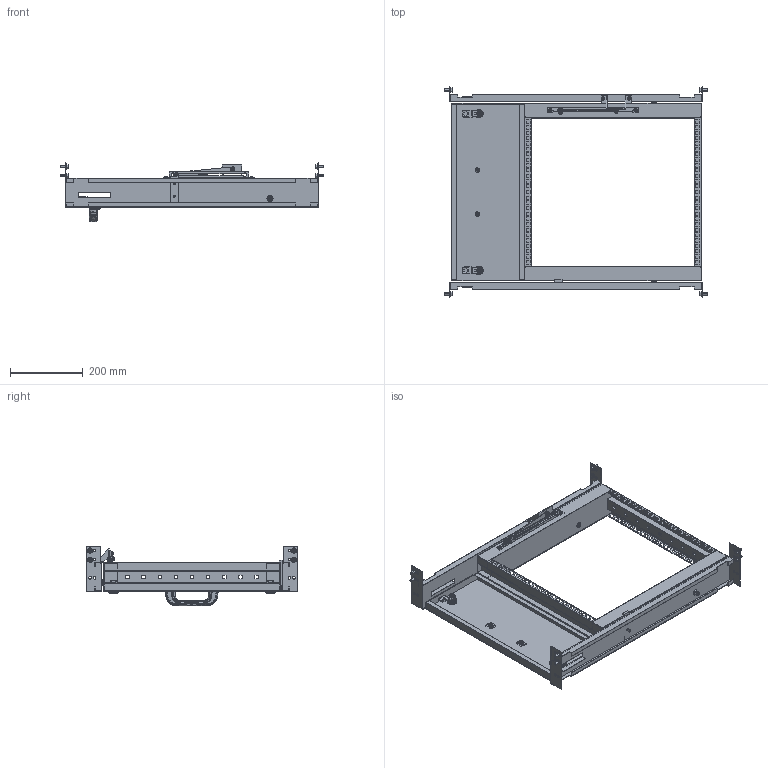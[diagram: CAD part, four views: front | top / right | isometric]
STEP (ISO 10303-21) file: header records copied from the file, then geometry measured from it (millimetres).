
FILE_DESCRIPTION(('Open CASCADE Model'),'2;1');
FILE_NAME('Open CASCADE Shape Model','2025-03-24T10:14:48',('Author'),( 'Open CASCADE'),'Open CASCADE STEP processor 7.8','Open CASCADE 7.8' ,'Unknown');
FILE_SCHEMA(('AUTOMOTIVE_DESIGN { 1 0 10303 214 1 1 1 1 }'));
Length unit declared in the file: millimetre
Products named in the file (32): Compound1; Compound2; Solid1; Solid2; Compound3; Solid3; Solid4; Solid5; Solid6; Solid7; Solid8; Solid9; Solid10; Solid11; Solid12; Solid13; Solid14; Solid15; Solid16; Solid17; Compound4; Solid18; Solid19; Solid20; Solid21; Compound5; Solid22; Solid23; Solid24; Solid25; Solid26; Solid27
Assembly tree (50 placements, depth 3):
  Compound1
    Compound2
      Solid1
      Solid2
    Compound3
      Solid3
      Solid2
    Solid4  x2
    Solid5  x2
    Solid6
    Solid7
    Solid8
    Solid9
    Solid10
    Solid11  x2
    Solid12  x4
    Solid13  x8
    Solid14
    Solid15
    Solid16  x2
    Solid17  x2
    Compound4
      Solid18
      Solid19
    Solid20
    Solid21
    Compound5
      Solid22  x2
      Solid23
      Solid24  x2
      Solid25
      Solid26  x2
      Solid27
Bounding box: 726 x 582 x 165 mm (x, y, z)
Volume: 1239986 mm3; surface area: 1497483.2 mm2
Topology: 48 solids, 66 shells, 4071 faces, 10998 edges, 7017 vertices
Faces by surface type: plane 1984, cylinder 724, bspline 670, cone 439, torus 176, sphere 78
Entity records: 112080 total; most frequent: CARTESIAN_POINT 46122, ORIENTED_EDGE 14640, DIRECTION 11836, EDGE_CURVE 7490, VERTEX_POINT 4783, LINE 3976, VECTOR 3976, AXIS2_PLACEMENT_3D 3930
